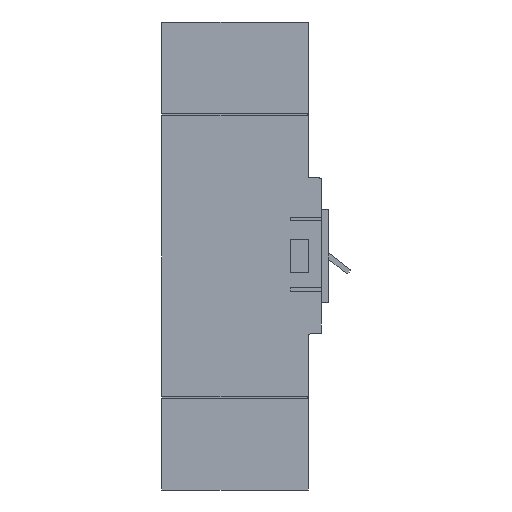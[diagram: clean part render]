
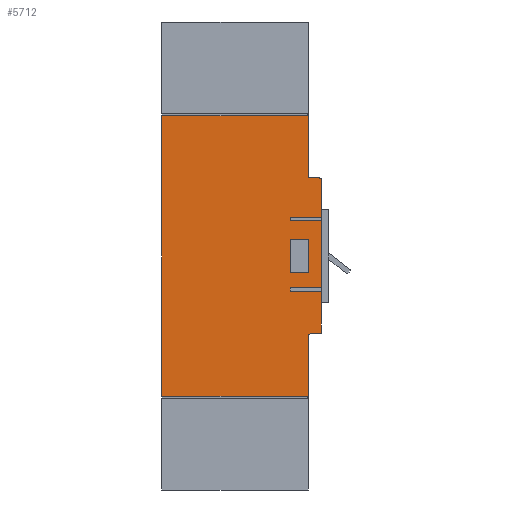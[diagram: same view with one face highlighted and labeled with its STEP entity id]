
A CAD part, left-side view. The second image highlights one B-rep face of the part: STEP entity #5712.
In plain terms, the highlighted planar face has unit normal (-1, 0, 0).
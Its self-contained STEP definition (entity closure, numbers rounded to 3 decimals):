
#178=FACE_BOUND('',#654,.T.);
#207=CIRCLE('',#6026,1.);
#208=CIRCLE('',#6027,1.);
#209=CIRCLE('',#6028,1.);
#210=CIRCLE('',#6029,1.);
#342=FACE_OUTER_BOUND('',#653,.T.);
#653=EDGE_LOOP('',(#3824,#3825,#3826,#3827,#3828,#3829,#3830,#3831,#3832,
#3833,#3834,#3835,#3836,#3837,#3838,#3839,#3840,#3841,#3842,#3843));
#654=EDGE_LOOP('',(#3844,#3845,#3846,#3847));
#980=LINE('',#7741,#1668);
#984=LINE('',#7749,#1672);
#987=LINE('',#7755,#1675);
#991=LINE('',#7764,#1679);
#995=LINE('',#7772,#1683);
#998=LINE('',#7778,#1686);
#1002=LINE('',#7787,#1690);
#1006=LINE('',#7795,#1694);
#1009=LINE('',#7801,#1697);
#1012=LINE('',#7806,#1700);
#1014=LINE('',#7810,#1702);
#1015=LINE('',#7812,#1703);
#1016=LINE('',#7816,#1704);
#1017=LINE('',#7820,#1705);
#1018=LINE('',#7822,#1706);
#1019=LINE('',#7824,#1707);
#1020=LINE('',#7826,#1708);
#1021=LINE('',#7828,#1709);
#1022=LINE('',#7832,#1710);
#1023=LINE('',#7835,#1711);
#1668=VECTOR('',#6361,17.);
#1672=VECTOR('',#6367,2.);
#1675=VECTOR('',#6372,17.);
#1679=VECTOR('',#6380,17.);
#1683=VECTOR('',#6386,2.);
#1686=VECTOR('',#6391,17.);
#1690=VECTOR('',#6399,10.);
#1694=VECTOR('',#6405,18.4);
#1697=VECTOR('',#6410,10.);
#1700=VECTOR('',#6415,18.4);
#1702=VECTOR('',#6421,36.4);
#1703=VECTOR('',#6422,20.3);
#1704=VECTOR('',#6425,5.);
#1705=VECTOR('',#6428,33.);
#1706=VECTOR('',#6429,80.);
#1707=VECTOR('',#6430,153.);
#1708=VECTOR('',#6431,80.);
#1709=VECTOR('',#6432,33.);
#1710=VECTOR('',#6435,5.);
#1711=VECTOR('',#6438,22.3);
#2356=VERTEX_POINT('',#7739);
#2357=VERTEX_POINT('',#7740);
#2360=VERTEX_POINT('',#7748);
#2362=VERTEX_POINT('',#7754);
#2364=VERTEX_POINT('',#7762);
#2365=VERTEX_POINT('',#7763);
#2368=VERTEX_POINT('',#7771);
#2370=VERTEX_POINT('',#7777);
#2372=VERTEX_POINT('',#7785);
#2373=VERTEX_POINT('',#7786);
#2376=VERTEX_POINT('',#7794);
#2378=VERTEX_POINT('',#7800);
#2380=VERTEX_POINT('',#7811);
#2381=VERTEX_POINT('',#7813);
#2382=VERTEX_POINT('',#7815);
#2383=VERTEX_POINT('',#7817);
#2384=VERTEX_POINT('',#7819);
#2385=VERTEX_POINT('',#7821);
#2386=VERTEX_POINT('',#7823);
#2387=VERTEX_POINT('',#7825);
#2388=VERTEX_POINT('',#7827);
#2389=VERTEX_POINT('',#7829);
#2390=VERTEX_POINT('',#7831);
#2391=VERTEX_POINT('',#7833);
#2924=EDGE_CURVE('',#2356,#2357,#980,.T.);
#2928=EDGE_CURVE('',#2360,#2356,#984,.T.);
#2931=EDGE_CURVE('',#2362,#2360,#987,.T.);
#2935=EDGE_CURVE('',#2364,#2365,#991,.T.);
#2939=EDGE_CURVE('',#2368,#2364,#995,.T.);
#2942=EDGE_CURVE('',#2370,#2368,#998,.T.);
#2946=EDGE_CURVE('',#2372,#2373,#1002,.T.);
#2950=EDGE_CURVE('',#2376,#2372,#1006,.T.);
#2953=EDGE_CURVE('',#2378,#2376,#1009,.T.);
#2956=EDGE_CURVE('',#2373,#2378,#1012,.T.);
#2958=EDGE_CURVE('',#2370,#2357,#1014,.T.);
#2959=EDGE_CURVE('',#2380,#2365,#1015,.T.);
#2960=EDGE_CURVE('',#2381,#2380,#207,.T.);
#2961=EDGE_CURVE('',#2382,#2381,#1016,.T.);
#2962=EDGE_CURVE('',#2383,#2382,#208,.T.);
#2963=EDGE_CURVE('',#2384,#2383,#1017,.T.);
#2964=EDGE_CURVE('',#2384,#2385,#1018,.T.);
#2965=EDGE_CURVE('',#2386,#2385,#1019,.T.);
#2966=EDGE_CURVE('',#2386,#2387,#1020,.T.);
#2967=EDGE_CURVE('',#2388,#2387,#1021,.T.);
#2968=EDGE_CURVE('',#2389,#2388,#209,.T.);
#2969=EDGE_CURVE('',#2390,#2389,#1022,.T.);
#2970=EDGE_CURVE('',#2391,#2390,#210,.T.);
#2971=EDGE_CURVE('',#2362,#2391,#1023,.T.);
#3824=ORIENTED_EDGE('',*,*,#2931,.T.);
#3825=ORIENTED_EDGE('',*,*,#2928,.T.);
#3826=ORIENTED_EDGE('',*,*,#2924,.T.);
#3827=ORIENTED_EDGE('',*,*,#2958,.F.);
#3828=ORIENTED_EDGE('',*,*,#2942,.T.);
#3829=ORIENTED_EDGE('',*,*,#2939,.T.);
#3830=ORIENTED_EDGE('',*,*,#2935,.T.);
#3831=ORIENTED_EDGE('',*,*,#2959,.F.);
#3832=ORIENTED_EDGE('',*,*,#2960,.F.);
#3833=ORIENTED_EDGE('',*,*,#2961,.F.);
#3834=ORIENTED_EDGE('',*,*,#2962,.F.);
#3835=ORIENTED_EDGE('',*,*,#2963,.F.);
#3836=ORIENTED_EDGE('',*,*,#2964,.T.);
#3837=ORIENTED_EDGE('',*,*,#2965,.F.);
#3838=ORIENTED_EDGE('',*,*,#2966,.T.);
#3839=ORIENTED_EDGE('',*,*,#2967,.F.);
#3840=ORIENTED_EDGE('',*,*,#2968,.F.);
#3841=ORIENTED_EDGE('',*,*,#2969,.F.);
#3842=ORIENTED_EDGE('',*,*,#2970,.F.);
#3843=ORIENTED_EDGE('',*,*,#2971,.F.);
#3844=ORIENTED_EDGE('',*,*,#2946,.T.);
#3845=ORIENTED_EDGE('',*,*,#2956,.T.);
#3846=ORIENTED_EDGE('',*,*,#2953,.T.);
#3847=ORIENTED_EDGE('',*,*,#2950,.T.);
#5481=PLANE('',#6025);
#5712=ADVANCED_FACE('',(#342,#178),#5481,.F.);
#6025=AXIS2_PLACEMENT_3D('',#7809,#6419,#6420);
#6026=AXIS2_PLACEMENT_3D('',#7814,#6423,#6424);
#6027=AXIS2_PLACEMENT_3D('',#7818,#6426,#6427);
#6028=AXIS2_PLACEMENT_3D('',#7830,#6433,#6434);
#6029=AXIS2_PLACEMENT_3D('',#7834,#6436,#6437);
#6361=DIRECTION('',(0.,-1.,0.));
#6367=DIRECTION('',(0.,0.,1.));
#6372=DIRECTION('',(0.,1.,0.));
#6380=DIRECTION('',(0.,-1.,0.));
#6386=DIRECTION('',(0.,0.,1.));
#6391=DIRECTION('',(0.,1.,0.));
#6399=DIRECTION('',(0.,-1.,0.));
#6405=DIRECTION('',(0.,0.,1.));
#6410=DIRECTION('',(0.,1.,0.));
#6415=DIRECTION('',(0.,0.,-1.));
#6419=DIRECTION('center_axis',(1.,0.,0.));
#6420=DIRECTION('ref_axis',(0.,0.,1.));
#6421=DIRECTION('',(0.,0.,-1.));
#6422=DIRECTION('',(0.,0.,-1.));
#6423=DIRECTION('center_axis',(1.,0.,0.));
#6424=DIRECTION('ref_axis',(0.,-0.707,0.707));
#6425=DIRECTION('',(0.,-1.,0.));
#6426=DIRECTION('center_axis',(-1.,0.,0.));
#6427=DIRECTION('ref_axis',(0.,0.707,-0.707));
#6428=DIRECTION('',(0.,0.,-1.));
#6429=DIRECTION('',(0.,1.,0.));
#6430=DIRECTION('',(0.,0.,1.));
#6431=DIRECTION('',(0.,-1.,0.));
#6432=DIRECTION('',(0.,0.,-1.));
#6433=DIRECTION('center_axis',(-1.,0.,0.));
#6434=DIRECTION('ref_axis',(0.,0.707,0.707));
#6435=DIRECTION('',(0.,1.,0.));
#6436=DIRECTION('center_axis',(1.,0.,0.));
#6437=DIRECTION('ref_axis',(0.,-0.707,-0.707));
#6438=DIRECTION('',(0.,0.,-1.));
#7739=CARTESIAN_POINT('',(0.,90.068,2.349));
#7740=CARTESIAN_POINT('',(0.,73.068,2.349));
#7741=CARTESIAN_POINT('',(0.,101.854,2.349));
#7748=CARTESIAN_POINT('',(0.,90.068,0.349));
#7749=CARTESIAN_POINT('',(0.,90.068,9.815));
#7754=CARTESIAN_POINT('',(0.,73.068,0.349));
#7755=CARTESIAN_POINT('',(0.,93.354,0.349));
#7762=CARTESIAN_POINT('',(0.,90.068,40.749));
#7763=CARTESIAN_POINT('',(0.,73.068,40.749));
#7764=CARTESIAN_POINT('',(0.,101.854,40.749));
#7771=CARTESIAN_POINT('',(0.,90.068,38.749));
#7772=CARTESIAN_POINT('',(0.,90.068,29.015));
#7777=CARTESIAN_POINT('',(0.,73.068,38.749));
#7778=CARTESIAN_POINT('',(0.,93.354,38.749));
#7785=CARTESIAN_POINT('',(0.,90.068,28.749));
#7786=CARTESIAN_POINT('',(0.,80.068,28.749));
#7787=CARTESIAN_POINT('',(0.,101.854,28.749));
#7794=CARTESIAN_POINT('',(0.,90.068,10.349));
#7795=CARTESIAN_POINT('',(0.,90.068,14.815));
#7800=CARTESIAN_POINT('',(0.,80.068,10.349));
#7801=CARTESIAN_POINT('',(0.,96.854,10.349));
#7806=CARTESIAN_POINT('',(0.,80.068,24.015));
#7809=CARTESIAN_POINT('Origin',(0.,113.64,19.282));
#7810=CARTESIAN_POINT('',(0.,73.068,62.049));
#7811=CARTESIAN_POINT('',(0.,73.068,61.049));
#7812=CARTESIAN_POINT('',(0.,73.068,62.049));
#7813=CARTESIAN_POINT('',(0.,74.068,62.049));
#7814=CARTESIAN_POINT('Origin',(0.,74.068,61.049));
#7815=CARTESIAN_POINT('',(0.,79.068,62.049));
#7816=CARTESIAN_POINT('',(0.,80.068,62.049));
#7817=CARTESIAN_POINT('',(0.,80.068,63.049));
#7818=CARTESIAN_POINT('Origin',(0.,79.068,63.049));
#7819=CARTESIAN_POINT('',(0.,80.068,96.049));
#7820=CARTESIAN_POINT('',(0.,80.068,97.049));
#7821=CARTESIAN_POINT('',(0.,160.068,96.049));
#7822=CARTESIAN_POINT('',(0.,136.854,96.049));
#7823=CARTESIAN_POINT('',(0.,160.068,-56.951));
#7824=CARTESIAN_POINT('',(0.,160.068,-57.951));
#7825=CARTESIAN_POINT('',(0.,80.068,-56.951));
#7826=CARTESIAN_POINT('',(0.,136.854,-56.951));
#7827=CARTESIAN_POINT('',(0.,80.068,-23.951));
#7828=CARTESIAN_POINT('',(0.,80.068,-22.951));
#7829=CARTESIAN_POINT('',(0.,79.068,-22.951));
#7830=CARTESIAN_POINT('Origin',(0.,79.068,-23.951));
#7831=CARTESIAN_POINT('',(0.,74.068,-22.951));
#7832=CARTESIAN_POINT('',(0.,73.068,-22.951));
#7833=CARTESIAN_POINT('',(0.,73.068,-21.951));
#7834=CARTESIAN_POINT('Origin',(0.,74.068,-21.951));
#7835=CARTESIAN_POINT('',(0.,73.068,62.049));
